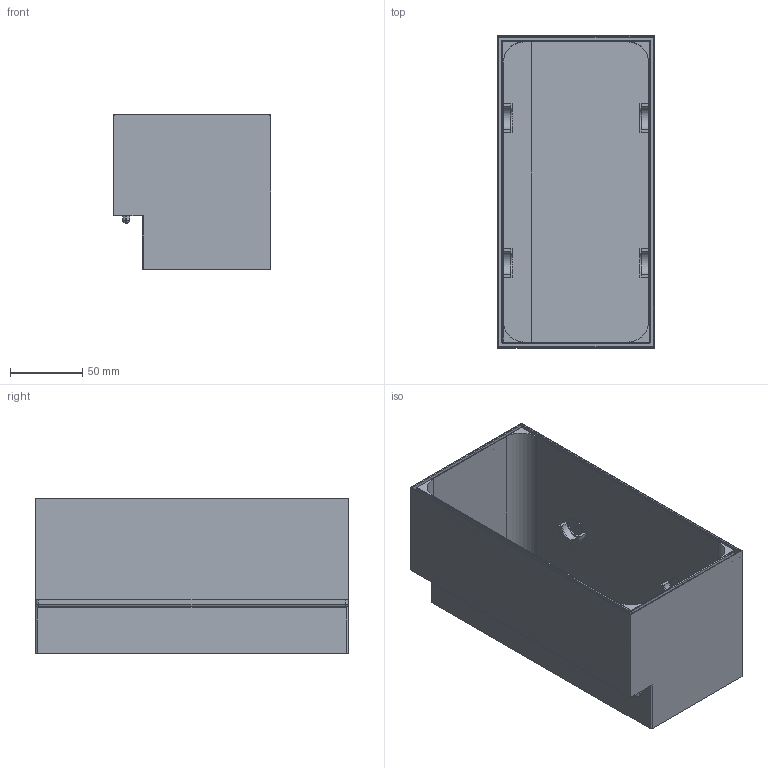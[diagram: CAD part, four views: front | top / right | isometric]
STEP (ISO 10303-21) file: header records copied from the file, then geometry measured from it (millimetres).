
FILE_DESCRIPTION(/* description */ (''),/* implementation_level */ '2;1');
FILE_NAME(/* name */ 'F:/Projekt/191130FBOX/Filamentcontainer01 v18.step',/* time_stamp */ '2019-12-19T10:24:47+01:00',/* author */ (''),/* organization */ (''),/* preprocessor_version */ 'ST-DEVELOPER v18',/* originating_system */ 'Autodesk Translation Framework v8.12.0.6',/* authorisation */ '');
FILE_SCHEMA (('AUTOMOTIVE_DESIGN { 1 0 10303 214 3 1 1 }'));
Length unit declared in the file: millimetre
Products named in the file (1): Filamentcontainer01
Bounding box: 109 x 216 x 107 mm (x, y, z)
Volume: 365163.6 mm3; surface area: 185724.6 mm2
Topology: 13 solids, 13 shells, 135 faces, 289 edges, 181 vertices
Faces by surface type: plane 75, cylinder 47, bspline 9, sphere 4
Full cylindrical faces by diameter (mm): 12 x4, 14 x4
Entity records: 3788 total; most frequent: CARTESIAN_POINT 762, DIRECTION 651, ORIENTED_EDGE 578, EDGE_CURVE 289, AXIS2_PLACEMENT_3D 235, LINE 181, VECTOR 181, VERTEX_POINT 181
